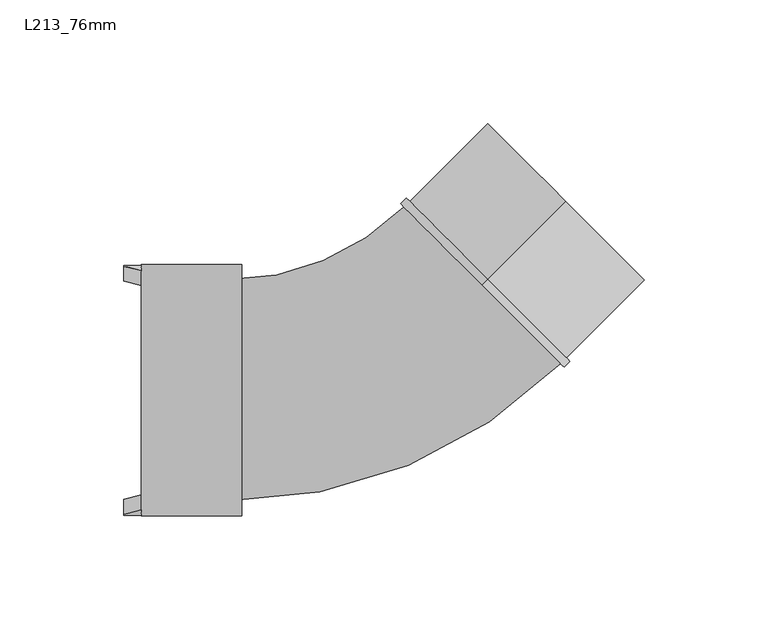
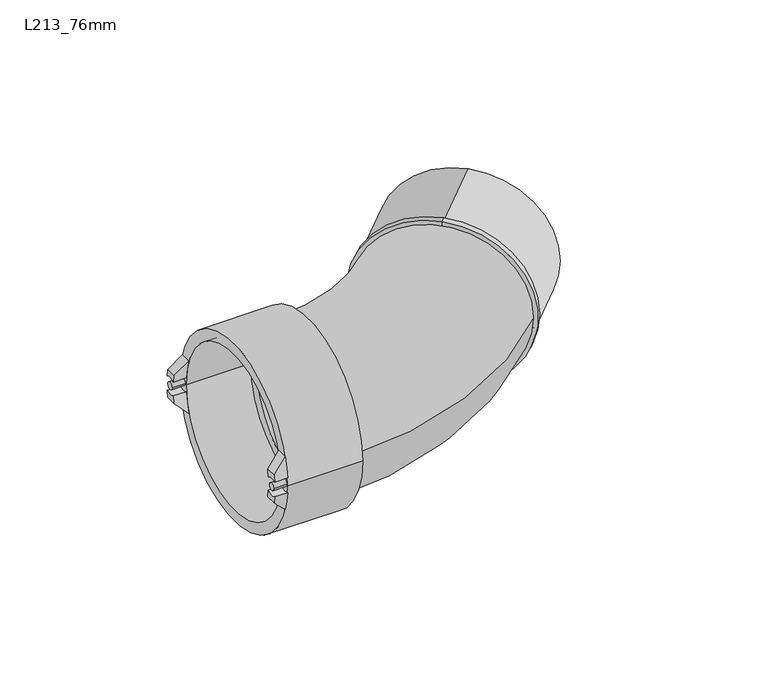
"""IFC4 building model written with IfcOpenShell, lengths in millimetres: pipe fitting geometry, Durapipe_PipeFitting_VulcatheneEnfusion_SingleSocketSlowBend_L21 : L213_76mm."""

import ifcopenshell
import ifcopenshell.guid

model = None  # the IFC model being written
_history = None  # IfcOwnerHistory: only IFC2X3 demands one
_inside = {}  # id of a spatial element -> (the spatial element, [elements in it])
_under = {}  # id of a project, library or spatial element -> (it, [spatial elements below it])
_declared = {}  # id of a project -> (the project, [libraries it declares])
_typed = {}  # id of a type object -> (the type object, [elements of that type])
_made_of = {}  # id of a material, layer set ... -> (it, [elements and type objects made of it])


def new_model(schema):
    """Start an empty IFC model of exactly this schema.

    Asked for "IFC4X3", IfcOpenShell would pick the latest addendum, in which some entities
    have other attributes; the version numbers below select the first issue.
    IFC2X3 requires an IfcOwnerHistory on every rooted entity: one is made here for all.
    """
    global model, _history
    if schema == "IFC4X3":
        model = ifcopenshell.file(schema_version=(4, 3, 0, 0))
    else:
        model = ifcopenshell.file(schema=schema)
    _inside.clear()
    _under.clear()
    _declared.clear()
    _typed.clear()
    _made_of.clear()
    _history = None
    if model.schema == "IFC2X3":
        org = make("IfcOrganization", Name="unknown")
        user = make(
            "IfcPersonAndOrganization",
            ThePerson=make("IfcPerson", FamilyName="unknown"),
            TheOrganization=org,
        )
        app = make(
            "IfcApplication",
            ApplicationDeveloper=org,
            Version="unknown",
            ApplicationFullName="unknown",
            ApplicationIdentifier="unknown",
        )
        _history = make(
            "IfcOwnerHistory",
            OwningUser=user,
            OwningApplication=app,
            ChangeAction="ADDED",
            CreationDate=0,
        )
    return model


def make(cls, **values):
    """One entity of the class cls with the attributes given. An attribute that is None is left unset."""
    return model.create_entity(
        cls, **{name: value for name, value in values.items() if value is not None}
    )


def rooted(cls, **values):
    """An entity with a GlobalId (a new one), such as an element, a storey or a relation."""
    return make(cls, GlobalId=ifcopenshell.guid.new(), OwnerHistory=_history, **values)


def si_unit(unit_type, name, prefix=None):
    """IfcSIUnit, for example si_unit("LENGTHUNIT", "METRE", prefix="MILLI")."""
    return make("IfcSIUnit", UnitType=unit_type, Prefix=prefix, Name=name)


def assignment(units):
    """IfcUnitAssignment: the units of a project."""
    return None if units is None else make("IfcUnitAssignment", Units=units)


def point(xyz):
    """IfcCartesianPoint."""
    return None if xyz is None else make("IfcCartesianPoint", Coordinates=xyz)


def direction(xyz):
    """IfcDirection."""
    return None if xyz is None else make("IfcDirection", DirectionRatios=xyz)


def frame(location, z_axis=None, x_axis=None):
    """IfcAxis2Placement3D, a coordinate frame: its origin and axes. An axis left out is left unset."""
    return make(
        "IfcAxis2Placement3D",
        Location=point(location),
        Axis=direction(z_axis),
        RefDirection=direction(x_axis),
    )


def frame_2d(location, x_axis=None):
    """IfcAxis2Placement2D, a coordinate frame in the plane: its origin and x axis."""
    return make(
        "IfcAxis2Placement2D", Location=point(location), RefDirection=direction(x_axis)
    )


def origin():
    """The frame at (0, 0, 0) with its axes left unset."""
    return frame((0.0, 0.0, 0.0))


def place(relative_to, where):
    """IfcLocalPlacement: puts the frame where relative to a parent placement (None: the world)."""
    return make(
        "IfcLocalPlacement", PlacementRelTo=relative_to, RelativePlacement=where
    )


def context(
    kind, dimensions, precision=None, world=None, true_north=None, identifier=None
):
    """IfcGeometricRepresentationContext, for example the 3D "Model" context."""
    return make(
        "IfcGeometricRepresentationContext",
        ContextIdentifier=identifier,
        ContextType=kind,
        CoordinateSpaceDimension=dimensions,
        Precision=precision,
        WorldCoordinateSystem=world,
        TrueNorth=true_north,
    )


def project(units=None, contexts=None):
    """IfcProject with its units and contexts."""
    return rooted(
        "IfcProject",
        Name="project",
        RepresentationContexts=contexts,
        UnitsInContext=assignment(units),
    )


def spatial(cls, under=None, at=None, **own):
    """A site, building, storey or space (cls), placed at a placement, below another one or the project."""
    s = rooted(cls, ObjectPlacement=at, **own)
    if under is not None:
        _under.setdefault(under.id(), (under, []))[1].append(s)
    return s


def polyline(points):
    """IfcPolyline through the points."""
    return make("IfcPolyline", Points=[point(p) for p in points])


def circle_curve(where, radius):
    """IfcCircle in the frame where."""
    return make("IfcCircle", Position=where, Radius=radius)


def ellipse_curve(where, semi_axis1, semi_axis2):
    """IfcEllipse in the frame where."""
    return make(
        "IfcEllipse", Position=where, SemiAxis1=semi_axis1, SemiAxis2=semi_axis2
    )


def trimmed(basis, trim1, trim2, sense, master):
    """IfcTrimmedCurve: the piece of a basis curve between two trims."""
    return make(
        "IfcTrimmedCurve",
        BasisCurve=basis,
        Trim1=trim1,
        Trim2=trim2,
        SenseAgreement=sense,
        MasterRepresentation=master,
    )


def segment(curve, same_sense, transition):
    """IfcCompositeCurveSegment."""
    return make(
        "IfcCompositeCurveSegment",
        Transition=transition,
        SameSense=same_sense,
        ParentCurve=curve,
    )


def composite_curve(segments, self_intersect=None):
    """IfcCompositeCurve: segments joined end to end."""
    return make("IfcCompositeCurve", Segments=segments, SelfIntersect=self_intersect)


def outline(outer, holes=None, kind="AREA"):
    """IfcArbitraryClosedProfileDef: a profile drawn as a closed curve; with holes, ...WithVoids."""
    if holes is None:
        return make("IfcArbitraryClosedProfileDef", ProfileType=kind, OuterCurve=outer)
    return make(
        "IfcArbitraryProfileDefWithVoids",
        ProfileType=kind,
        OuterCurve=outer,
        InnerCurves=holes,
    )


def extrude(swept, where, along, depth):
    """IfcExtrudedAreaSolid: the profile swept, set in the frame where, extruded along a direction by depth."""
    return make(
        "IfcExtrudedAreaSolid",
        SweptArea=swept,
        Position=where,
        ExtrudedDirection=direction(along),
        Depth=depth,
    )


def shape(context_of_items, identifier, shape_type, items):
    """IfcShapeRepresentation: the items that make up one representation, for example the "Body"."""
    return make(
        "IfcShapeRepresentation",
        ContextOfItems=context_of_items,
        RepresentationIdentifier=identifier,
        RepresentationType=shape_type,
        Items=items,
    )


def source(mapping_origin, context_of_items, identifier, shape_type, items):
    """IfcRepresentationMap: a shape defined once, which mapped items show again and again."""
    return make(
        "IfcRepresentationMap",
        MappingOrigin=mapping_origin,
        MappedRepresentation=shape(context_of_items, identifier, shape_type, items),
    )


def transform(
    local_origin,
    x_axis=None,
    y_axis=None,
    z_axis=None,
    scale=None,
    scale2=None,
    scale3=None,
    uniform=True,
):
    """IfcCartesianTransformationOperator3D, or its non-uniform kind. x_axis, y_axis, z_axis: its Axis1, 2, 3."""
    if uniform:
        return make(
            "IfcCartesianTransformationOperator3D",
            Axis1=direction(x_axis),
            Axis2=direction(y_axis),
            LocalOrigin=point(local_origin),
            Scale=scale,
            Axis3=direction(z_axis),
        )
    return make(
        "IfcCartesianTransformationOperator3DnonUniform",
        Axis1=direction(x_axis),
        Axis2=direction(y_axis),
        LocalOrigin=point(local_origin),
        Scale=scale,
        Axis3=direction(z_axis),
        Scale2=scale2,
        Scale3=scale3,
    )


def mapped(mapping_source, mapping_target):
    """IfcMappedItem: shows the shape of a source again, moved by a transform."""
    return make(
        "IfcMappedItem", MappingSource=mapping_source, MappingTarget=mapping_target
    )


def made_of(thing, what):
    """Note that an element or type object is made of a material, layer set ...; save() writes the relation."""
    if what is not None:
        _made_of.setdefault(what.id(), (what, []))[1].append(thing)
    return thing


def element(
    cls,
    number,
    at=None,
    inside=None,
    cuts=None,
    type_object=None,
    material=None,
    context=None,
    identifier="Body",
    shape_type=None,
    held_by="IfcProductDefinitionShape",
    body=None,
    shapes=None,
    **own,
):
    """One element of the class cls, such as IfcWall. Its Tag is "e" and its number.

    at: its placement. inside: the storey or other place that contains it. cuts: it is an
    opening in that element (IfcRelVoidsElement). A single representation is given by context,
    identifier, shape_type and body (its items); several are given by shapes. held_by: the class
    of the entity that holds the representations. save() writes the other relations.
    """
    e = rooted(cls, Tag="e%d" % number, ObjectPlacement=at, **own)
    if body is not None:
        shapes = [shape(context, identifier, shape_type, body)]
    if shapes is not None:
        e.Representation = make(held_by, Representations=shapes)
    if inside is not None:
        _inside.setdefault(inside.id(), (inside, []))[1].append(e)
    if cuts is not None:
        rooted(
            "IfcRelVoidsElement", RelatingBuildingElement=cuts, RelatedOpeningElement=e
        )
    if type_object is not None:
        _typed.setdefault(type_object.id(), (type_object, []))[1].append(e)
    return made_of(e, material)


def aggregate(whole, parts):
    """IfcRelAggregates: a whole, such as a stair, and the parts it consists of."""
    return rooted("IfcRelAggregates", RelatingObject=whole, RelatedObjects=parts)


def save(model, path):
    """Write the relations noted so far, then the file.

    IfcRelAggregates (storeys below a building ...), IfcRelContainedInSpatialStructure (elements
    in a storey), IfcRelDefinesByType, IfcRelAssociatesMaterial and IfcRelDeclares: one each for
    every whole, place, type object, material and project.
    """
    for whole, parts in _under.values():
        aggregate(whole, parts)
    for where, things in _inside.values():
        rooted(
            "IfcRelContainedInSpatialStructure",
            RelatedElements=things,
            RelatingStructure=where,
        )
    for kind, things in _typed.values():
        rooted("IfcRelDefinesByType", RelatedObjects=things, RelatingType=kind)
    for what, things in _made_of.values():
        rooted("IfcRelAssociatesMaterial", RelatedObjects=things, RelatingMaterial=what)
    for by, libraries in _declared.values():
        rooted("IfcRelDeclares", RelatingContext=by, RelatedDefinitions=libraries)
    model.write(path)


def plane_surface(at):
    """IfcPlane: the flat surface through the origin of the frame at, square to its z axis."""
    return make("IfcPlane", Position=at)


def cylinder_surface(at, radius):
    """IfcCylindricalSurface: all points at the distance radius from the z axis of the frame at."""
    return make("IfcCylindricalSurface", Position=at, Radius=radius)


def revolved_surface(curve, axis_point, axis_direction):
    """IfcSurfaceOfRevolution: the curve turned about the line through axis_point along axis_direction."""
    return make(
        "IfcSurfaceOfRevolution",
        SweptCurve=make("IfcArbitraryOpenProfileDef", ProfileType="CURVE", Curve=curve),
        AxisPosition=make("IfcAxis1Placement", Location=point(axis_point), Axis=direction(axis_direction)),
    )


def advanced_brep(points, edges, surfaces, faces):
    """IfcAdvancedBrep: a solid bounded by faces that lie on surfaces and meet in shared edges.

    An edge is (start, end): straight between two places in points (the first is 0);
    or (start, end, curve); or (start, end, curve, False) where it runs against its curve.
    A face is (place in surfaces, loops), or (place, loops, False) where it looks against
    its surface's normal. A loop lists edges by number (the first is 1), with a minus sign
    where the edge is run from its end to its start. The first loop is the outer one.
    """
    corners = [point(p) for p in points]
    vertices = [make("IfcVertexPoint", VertexGeometry=c) for c in corners]
    made = []
    for start, end, *more in edges:
        made.append(
            make(
                "IfcEdgeCurve",
                EdgeStart=vertices[start],
                EdgeEnd=vertices[end],
                EdgeGeometry=more[0] if more else make("IfcPolyline", Points=[corners[start], corners[end]]),
                SameSense=more[1] if len(more) > 1 else True,
            )
        )
    hull = []
    for where, loops, *sense in faces:
        bounds = []
        for j, loop in enumerate(loops):
            ring = [make("IfcOrientedEdge", EdgeElement=made[abs(k) - 1], Orientation=k > 0) for k in loop]
            bounds.append(
                make(
                    "IfcFaceOuterBound" if j == 0 else "IfcFaceBound",
                    Bound=make("IfcEdgeLoop", EdgeList=ring),
                    Orientation=True,
                )
            )
        hull.append(make("IfcAdvancedFace", Bounds=bounds, FaceSurface=surfaces[where], SameSense=sense[0] if sense else True))
    return make("IfcAdvancedBrep", Outer=make("IfcClosedShell", CfsFaces=hull))


def l213_76mm_04a1a28b(model_context):
    return source(origin(), model_context, "Body", "SolidModel", [
        advanced_brep(
        [(-102.1609665, 44.6762827, -3.9436356), (-102.1609665, 50.4762827, -4.1913461), (-102.1609665, 50.0237833, -7.94), (-102.1609665, 44.1415779, -7.94), (-95.0609665, 48.3779133, -15.0), (-95.0609665, 50.4762827, -4.1913461), (-95.0609665, 44.6762827, -3.9436356), (-95.0609665, 42.2672746, -15.0)],
        [
            (0, 1, circle_curve(frame((-102.1609665, 47.75, 0.0), z_axis=(1.0, 0.0, 0.0), x_axis=(0.0, -1.0, 0.0)), 5.0)),
            (1, 2, circle_curve(frame((-102.1609665, 0.0, 0.0), z_axis=(-1.0, 0.0, 0.0), x_axis=(0.0, -1.0, 0.0)), 50.65)),
            (2, 3),
            (3, 0, circle_curve(frame((-102.1609665, 0.0, 0.0), z_axis=(1.0, 0.0, 0.0), x_axis=(0.0, -1.0, 0.0)), 44.85)),
            (4, 5, circle_curve(frame((-95.0609665, 0.0, 0.0), z_axis=(1.0, 0.0, 0.0), x_axis=(0.0, -1.0, 0.0)), 50.65)),
            (5, 6, circle_curve(frame((-95.0609665, 47.75, 0.0), z_axis=(-1.0, 0.0, 0.0), x_axis=(0.0, -1.0, 0.0)), 5.0)),
            (6, 7, circle_curve(frame((-95.0609665, 0.0, 0.0), z_axis=(-1.0, 0.0, 0.0), x_axis=(0.0, -1.0, 0.0)), 44.85)),
            (7, 4),
            (6, 0),
            (3, 7, ellipse_curve(frame((-110.1459524, 0.0, 0.0), z_axis=(-0.705106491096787, 0.0, -0.7091014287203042), x_axis=(0.7091014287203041, 0.0, -0.705106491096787)), 63.6074133, 44.85)),
            (4, 2, ellipse_curve(frame((-110.1459524, 0.0, 0.0), z_axis=(0.705106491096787, 0.0, 0.7091014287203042), x_axis=(-0.7091014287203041, 0.0, 0.705106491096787)), 71.8331212, 50.65)),
            (1, 5),
        ],
        [
            plane_surface(frame((-102.1609665, 48.3779133, -15.0), z_axis=(-1.0, 0.0, 0.0), x_axis=(0.0, -1.0, 0.0))),
            plane_surface(frame((-95.0609665, 48.3779133, -15.0), z_axis=(1.0, 0.0, 0.0), x_axis=(0.0, 1.0, 0.0))),
            revolved_surface(polyline([(-65.04184475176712, -44.85, 0.0), (-155.25006004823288, -44.85, 0.0)]), (-95.0609665, 0.0, 0.0), (1.0, 0.0, 0.0)),
            cylinder_surface(frame((-95.0609665, 0.0, 0.0), z_axis=(-1.0, 0.0, 0.0), x_axis=(0.0, -1.0, 0.0)), 50.65),
            revolved_surface(polyline([(-102.1609665, 42.75, 0.0), (-95.0609665, 42.75, 0.0)]), (-95.0609665, 47.75, 0.0), (-1.0, 0.0, 0.0)),
            plane_surface(frame((-95.0609665, -50.65, -15.0), z_axis=(-0.705106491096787, 0.0, -0.7091014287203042), x_axis=(0.0, 1.0, 0.0))),
        ],
        [
            (0, [[1, 2, 3, 4]]),
            (1, [[5, 6, 7, 8]]),
            (2, [[-7, 9, -4, 10]]),
            (3, [[-5, 11, -2, 12]]),
            (4, [[-1, -9, -6, -12]]),
            (5, [[-3, -11, -8, -10]]),
        ],
    ),
        advanced_brep(
        [(-102.1609665, 50.4762827, 4.1913461), (-102.1609665, 44.6762827, 3.9436356), (-102.1609665, 44.1415779, 7.94), (-102.1609665, 50.0237833, 7.94), (-95.0609665, 50.4762827, 4.1913461), (-95.0609665, 48.3779133, 15.0), (-95.0609665, 42.2672746, 15.0), (-95.0609665, 44.6762827, 3.9436356)],
        [
            (0, 1, circle_curve(frame((-102.1609665, 47.75, 0.0), z_axis=(1.0, 0.0, 0.0), x_axis=(0.0, -1.0, 0.0)), 5.0)),
            (1, 2, circle_curve(frame((-102.1609665, 0.0, 0.0), z_axis=(1.0, 0.0, 0.0), x_axis=(0.0, -1.0, 0.0)), 44.85)),
            (2, 3),
            (3, 0, circle_curve(frame((-102.1609665, 0.0, 0.0), z_axis=(-1.0, 0.0, 0.0), x_axis=(0.0, -1.0, 0.0)), 50.65)),
            (4, 5, circle_curve(frame((-95.0609665, 0.0, 0.0), z_axis=(1.0, 0.0, 0.0), x_axis=(0.0, -1.0, 0.0)), 50.65)),
            (5, 6),
            (6, 7, circle_curve(frame((-95.0609665, 0.0, 0.0), z_axis=(-1.0, 0.0, 0.0), x_axis=(0.0, -1.0, 0.0)), 44.85)),
            (7, 4, circle_curve(frame((-95.0609665, 47.75, 0.0), z_axis=(-1.0, 0.0, 0.0), x_axis=(0.0, -1.0, 0.0)), 5.0)),
            (6, 2, ellipse_curve(frame((-110.1459524, 0.0, 0.0), z_axis=(-0.7051064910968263, 0.0, 0.7091014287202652), x_axis=(0.7091014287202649, 0.0, 0.7051064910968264)), 63.6074133, 44.85)),
            (1, 7),
            (4, 0),
            (3, 5, ellipse_curve(frame((-110.1459524, 0.0, 0.0), z_axis=(0.7051064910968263, 0.0, -0.7091014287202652), x_axis=(-0.7091014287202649, 0.0, -0.7051064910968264)), 71.8331212, 50.65)),
        ],
        [
            plane_surface(frame((-102.1609665, 48.3779133, -15.0), z_axis=(-1.0, 0.0, 0.0), x_axis=(0.0, -1.0, 0.0))),
            plane_surface(frame((-95.0609665, 48.3779133, -15.0), z_axis=(1.0, 0.0, 0.0), x_axis=(0.0, 1.0, 0.0))),
            revolved_surface(polyline([(-65.04184475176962, -44.85, 0.0), (-155.25006004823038, -44.85, 0.0)]), (-95.0609665, 0.0, 0.0), (1.0, 0.0, 0.0)),
            cylinder_surface(frame((-95.0609665, 0.0, 0.0), z_axis=(-1.0, 0.0, 0.0), x_axis=(0.0, -1.0, 0.0)), 50.65),
            revolved_surface(polyline([(-102.1609665, 42.75, 0.0), (-95.0609665, 42.75, 0.0)]), (-95.0609665, 47.75, 0.0), (-1.0, 0.0, 0.0)),
            plane_surface(frame((-102.1609665, -50.65, 7.94), z_axis=(-0.7051064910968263, 0.0, 0.7091014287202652), x_axis=(0.0, 1.0, 0.0))),
        ],
        [
            (0, [[1, 2, 3, 4]]),
            (1, [[5, 6, 7, 8]]),
            (2, [[-7, 9, -2, 10]]),
            (3, [[-5, 11, -4, 12]]),
            (4, [[-1, -11, -8, -10]]),
            (5, [[-3, -9, -6, -12]]),
        ],
    ),
        advanced_brep(
        [(-102.1609665, -50.4762827, -4.1913461), (-102.1609665, -44.6762827, -3.9436356), (-102.1609665, -44.1415779, -7.94), (-102.1609665, -50.0237833, -7.94), (-95.0609665, -50.4762827, -4.1913461), (-95.0609665, -48.3779133, -15.0), (-95.0609665, -42.2672746, -15.0), (-95.0609665, -44.6762827, -3.9436356)],
        [
            (0, 1, circle_curve(frame((-102.1609665, -47.75, 0.0), z_axis=(1.0, 0.0, 0.0), x_axis=(0.0, -1.0, 0.0)), 5.0)),
            (1, 2, circle_curve(frame((-102.1609665, 0.0, 0.0), z_axis=(1.0, 0.0, 0.0), x_axis=(0.0, -1.0, 0.0)), 44.85)),
            (2, 3),
            (3, 0, circle_curve(frame((-102.1609665, 0.0, 0.0), z_axis=(-1.0, 0.0, 0.0), x_axis=(0.0, -1.0, 0.0)), 50.65)),
            (4, 5, circle_curve(frame((-95.0609665, 0.0, 0.0), z_axis=(1.0, 0.0, 0.0), x_axis=(0.0, -1.0, 0.0)), 50.65)),
            (5, 6),
            (6, 7, circle_curve(frame((-95.0609665, 0.0, 0.0), z_axis=(-1.0, 0.0, 0.0), x_axis=(0.0, -1.0, 0.0)), 44.85)),
            (7, 4, circle_curve(frame((-95.0609665, -47.75, 0.0), z_axis=(-1.0, 0.0, 0.0), x_axis=(0.0, -1.0, 0.0)), 5.0)),
            (6, 2, ellipse_curve(frame((-110.1459524, 0.0, 0.0), z_axis=(-0.705106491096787, 0.0, -0.7091014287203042), x_axis=(0.7091014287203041, 0.0, -0.705106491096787)), 63.6074133, 44.85)),
            (1, 7),
            (4, 0),
            (3, 5, ellipse_curve(frame((-110.1459524, 0.0, 0.0), z_axis=(0.705106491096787, 0.0, 0.7091014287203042), x_axis=(-0.7091014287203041, 0.0, 0.705106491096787)), 71.8331212, 50.65)),
        ],
        [
            plane_surface(frame((-102.1609665, 48.3779133, -15.0), z_axis=(-1.0, 0.0, 0.0), x_axis=(0.0, -1.0, 0.0))),
            plane_surface(frame((-95.0609665, 48.3779133, -15.0), z_axis=(1.0, 0.0, 0.0), x_axis=(0.0, 1.0, 0.0))),
            revolved_surface(polyline([(-65.04184475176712, -44.85, 0.0), (-155.25006004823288, -44.85, 0.0)]), (-95.0609665, 0.0, 0.0), (1.0, 0.0, 0.0)),
            cylinder_surface(frame((-95.0609665, 0.0, 0.0), z_axis=(-1.0, 0.0, 0.0), x_axis=(0.0, -1.0, 0.0)), 50.65),
            revolved_surface(polyline([(-102.1609665, -52.75, 0.0), (-95.0609665, -52.75, 0.0)]), (-95.0609665, -47.75, 0.0), (-1.0, 0.0, 0.0)),
            plane_surface(frame((-95.0609665, -50.65, -15.0), z_axis=(-0.705106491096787, 0.0, -0.7091014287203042), x_axis=(0.0, 1.0, 0.0))),
        ],
        [
            (0, [[1, 2, 3, 4]]),
            (1, [[5, 6, 7, 8]]),
            (2, [[-7, 9, -2, 10]]),
            (3, [[-5, 11, -4, 12]]),
            (4, [[-1, -11, -8, -10]]),
            (5, [[-3, -9, -6, -12]]),
        ],
    ),
        advanced_brep(
        [(-102.1609665, -44.6762827, 3.9436356), (-102.1609665, -50.4762827, 4.1913461), (-102.1609665, -50.0237833, 7.94), (-102.1609665, -44.1415779, 7.94), (-95.0609665, -48.3779133, 15.0), (-95.0609665, -50.4762827, 4.1913461), (-95.0609665, -44.6762827, 3.9436356), (-95.0609665, -42.2672746, 15.0)],
        [
            (0, 1, circle_curve(frame((-102.1609665, -47.75, 0.0), z_axis=(1.0, 0.0, 0.0), x_axis=(0.0, -1.0, 0.0)), 5.0)),
            (1, 2, circle_curve(frame((-102.1609665, 0.0, 0.0), z_axis=(-1.0, 0.0, 0.0), x_axis=(0.0, -1.0, 0.0)), 50.65)),
            (2, 3),
            (3, 0, circle_curve(frame((-102.1609665, 0.0, 0.0), z_axis=(1.0, 0.0, 0.0), x_axis=(0.0, -1.0, 0.0)), 44.85)),
            (4, 5, circle_curve(frame((-95.0609665, 0.0, 0.0), z_axis=(1.0, 0.0, 0.0), x_axis=(0.0, -1.0, 0.0)), 50.65)),
            (5, 6, circle_curve(frame((-95.0609665, -47.75, 0.0), z_axis=(-1.0, 0.0, 0.0), x_axis=(0.0, -1.0, 0.0)), 5.0)),
            (6, 7, circle_curve(frame((-95.0609665, 0.0, 0.0), z_axis=(-1.0, 0.0, 0.0), x_axis=(0.0, -1.0, 0.0)), 44.85)),
            (7, 4),
            (6, 0),
            (3, 7, ellipse_curve(frame((-110.1459524, 0.0, 0.0), z_axis=(-0.7051064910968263, 0.0, 0.7091014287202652), x_axis=(0.7091014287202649, 0.0, 0.7051064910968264)), 63.6074133, 44.85)),
            (4, 2, ellipse_curve(frame((-110.1459524, 0.0, 0.0), z_axis=(0.7051064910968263, 0.0, -0.7091014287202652), x_axis=(-0.7091014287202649, 0.0, -0.7051064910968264)), 71.8331212, 50.65)),
            (1, 5),
        ],
        [
            plane_surface(frame((-102.1609665, 48.3779133, -15.0), z_axis=(-1.0, 0.0, 0.0), x_axis=(0.0, -1.0, 0.0))),
            plane_surface(frame((-95.0609665, 48.3779133, -15.0), z_axis=(1.0, 0.0, 0.0), x_axis=(0.0, 1.0, 0.0))),
            revolved_surface(polyline([(-65.04184475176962, -44.85, 0.0), (-155.25006004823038, -44.85, 0.0)]), (-95.0609665, 0.0, 0.0), (1.0, 0.0, 0.0)),
            cylinder_surface(frame((-95.0609665, 0.0, 0.0), z_axis=(-1.0, 0.0, 0.0), x_axis=(0.0, -1.0, 0.0)), 50.65),
            revolved_surface(polyline([(-102.1609665, -52.75, 0.0), (-95.0609665, -52.75, 0.0)]), (-95.0609665, -47.75, 0.0), (-1.0, 0.0, 0.0)),
            plane_surface(frame((-102.1609665, -50.65, 7.94), z_axis=(-0.7051064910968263, 0.0, 0.7091014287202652), x_axis=(0.0, 1.0, 0.0))),
        ],
        [
            (0, [[1, 2, 3, 4]]),
            (1, [[5, 6, 7, 8]]),
            (2, [[-7, 9, -4, 10]]),
            (3, [[-5, 11, -2, 12]]),
            (4, [[-1, -9, -6, -12]]),
            (5, [[-3, -11, -8, -10]]),
        ],
    ),
        extrude(outline(composite_curve([segment(trimmed(circle_curve(frame_2d((47.75, 0.0)), 2.0), [point((49.75, 0.0))], [point((45.75, 0.0))], False, "CARTESIAN"), True, "CONTINUOUS"), segment(trimmed(circle_curve(frame_2d((47.75, 0.0)), 2.0), [point((45.75, 0.0))], [point((49.75, 0.0))], False, "CARTESIAN"), True, "CONTINUOUS")], self_intersect=False)), frame((-102.1609665, 0.0, 0.0), z_axis=(1.0, 0.0, 0.0), x_axis=(0.0, 1.0, 0.0)), (0.0, 0.0, 1.0), 7.1),
        extrude(outline(composite_curve([segment(trimmed(circle_curve(frame_2d((-47.75, 0.0)), 2.0), [point((-45.75, 0.0))], [point((-49.75, 0.0))], False, "CARTESIAN"), True, "CONTINUOUS"), segment(trimmed(circle_curve(frame_2d((-47.75, 0.0)), 2.0), [point((-49.75, 0.0))], [point((-45.75, 0.0))], False, "CARTESIAN"), True, "CONTINUOUS")], self_intersect=False)), frame((-102.1609665, 0.0, 0.0), z_axis=(1.0, 0.0, 0.0), x_axis=(0.0, 1.0, 0.0)), (0.0, 0.0, 1.0), 7.1),
        advanced_brep(
        [(-60.0609665, 39.3, 0.0), (-60.0609665, -39.3, 0.0), (-60.0609665, -44.7, 0.0), (-60.0609665, 44.7, 0.0), (-54.5609665, 39.3, 0.0), (-54.5609665, -39.3, 0.0), (-54.5609665, 50.8, 0.0), (-54.5609665, -50.8, 0.0), (-95.0609665, 50.8, 0.0), (-95.0609665, -50.8, 0.0), (-95.0609665, 44.7, 0.0), (-95.0609665, -44.7, 0.0)],
        [
            (0, 1, circle_curve(frame((-60.0609665, 0.0, 0.0), z_axis=(1.0, 0.0, 0.0), x_axis=(0.0, -1.0, 0.0)), 39.3)),
            (1, 2),
            (2, 3, circle_curve(frame((-60.0609665, 0.0, 0.0), z_axis=(-1.0, 0.0, 0.0), x_axis=(0.0, -1.0, 0.0)), 44.7)),
            (3, 0),
            (1, 0, circle_curve(frame((-60.0609665, 0.0, 0.0), z_axis=(1.0, 0.0, 0.0), x_axis=(0.0, -1.0, 0.0)), 39.3)),
            (3, 2, circle_curve(frame((-60.0609665, 0.0, 0.0), z_axis=(-1.0, 0.0, 0.0), x_axis=(0.0, -1.0, 0.0)), 44.7)),
            (4, 5, circle_curve(frame((-54.5609665, 0.0, 0.0), z_axis=(1.0, 0.0, 0.0), x_axis=(0.0, -1.0, 0.0)), 39.3)),
            (5, 1),
            (0, 4),
            (5, 4, circle_curve(frame((-54.5609665, 0.0, 0.0), z_axis=(1.0, 0.0, 0.0), x_axis=(0.0, -1.0, 0.0)), 39.3)),
            (6, 7, circle_curve(frame((-54.5609665, 0.0, 0.0), z_axis=(1.0, 0.0, 0.0), x_axis=(0.0, -1.0, 0.0)), 50.8)),
            (7, 5),
            (4, 6),
            (7, 6, circle_curve(frame((-54.5609665, 0.0, 0.0), z_axis=(1.0, 0.0, 0.0), x_axis=(0.0, -1.0, 0.0)), 50.8)),
            (8, 9, circle_curve(frame((-95.0609665, 0.0, 0.0), z_axis=(1.0, 0.0, 0.0), x_axis=(0.0, -1.0, 0.0)), 50.8)),
            (9, 7),
            (6, 8),
            (9, 8, circle_curve(frame((-95.0609665, 0.0, 0.0), z_axis=(1.0, 0.0, 0.0), x_axis=(0.0, -1.0, 0.0)), 50.8)),
            (10, 11, circle_curve(frame((-95.0609665, 0.0, 0.0), z_axis=(1.0, 0.0, 0.0), x_axis=(0.0, -1.0, 0.0)), 44.7)),
            (11, 9),
            (8, 10),
            (11, 10, circle_curve(frame((-95.0609665, 0.0, 0.0), z_axis=(1.0, 0.0, 0.0), x_axis=(0.0, -1.0, 0.0)), 44.7)),
            (2, 11),
            (10, 3),
        ],
        [
            plane_surface(frame((-60.0609665, 0.0, 0.0), z_axis=(-1.0, 0.0, 0.0), x_axis=(0.0, -1.0, 0.0))),
            revolved_surface(polyline([(-60.06096650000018, -39.3, 0.0), (-54.56096650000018, -39.3, 0.0)]), (-2609.0435906, 0.0, 0.0), (-1.0, 0.0, 0.0)),
            plane_surface(frame((-54.5609665, 0.0, 0.0), z_axis=(1.0, 0.0, 0.0), x_axis=(0.0, -1.0, 0.0))),
            cylinder_surface(frame((-2609.0435906, 0.0, 0.0), z_axis=(-1.0, 0.0, 0.0), x_axis=(0.0, -1.0, 0.0)), 50.8),
            plane_surface(frame((-95.0609665, 0.0, 0.0), z_axis=(-1.0, 0.0, 0.0), x_axis=(0.0, -1.0, 0.0))),
            revolved_surface(polyline([(-95.06096650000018, -44.7, 0.0), (-60.06096650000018, -44.7, 0.0)]), (-2609.0435906, 0.0, 0.0), (-1.0, 0.0, 0.0)),
        ],
        [
            (0, [[1, 2, 3, 4]]),
            (0, [[5, -4, 6, -2]]),
            (1, [[7, 8, -1, 9]]),
            (1, [[10, -9, -5, -8]]),
            (2, [[11, 12, -7, 13]]),
            (2, [[14, -13, -10, -12]]),
            (3, [[15, 16, -11, 17]]),
            (3, [[18, -17, -14, -16]]),
            (4, [[19, 20, -15, 21]]),
            (4, [[22, -21, -18, -20]]),
            (5, [[-3, 23, -19, 24]]),
            (5, [[-6, -24, -22, -23]]),
        ],
    ),
        advanced_brep(
        [(42.4695167, 42.4695167, -46.7), (42.4695167, 42.4695167, 46.7), (42.4695167, 42.4695167, 39.3), (42.4695167, 42.4695167, -39.3), (44.7322584, 44.7322584, -46.7), (44.7322584, 44.7322584, 46.7), (44.7322584, 44.7322584, -44.7), (44.7322584, 44.7322584, 44.7), (76.1985102, 76.1985102, -44.7), (76.1985102, 76.1985102, 44.7), (76.1985102, 76.1985102, -39.3), (76.1985102, 76.1985102, 39.3)],
        [
            (0, 1, circle_curve(frame((42.4695167, 42.4695167, 0.0), z_axis=(-0.7071067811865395, -0.7071067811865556, 0.0), x_axis=(0.0, 0.0, 1.0)), 46.7)),
            (1, 2),
            (2, 3, circle_curve(frame((42.4695167, 42.4695167, 0.0), z_axis=(0.7071067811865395, 0.7071067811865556, 0.0), x_axis=(0.0, 0.0, 1.0)), 39.3)),
            (3, 0),
            (1, 0, circle_curve(frame((42.4695167, 42.4695167, 0.0), z_axis=(-0.7071067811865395, -0.7071067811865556, 0.0), x_axis=(0.0, 0.0, 1.0)), 46.7)),
            (3, 2, circle_curve(frame((42.4695167, 42.4695167, 0.0), z_axis=(0.7071067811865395, 0.7071067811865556, 0.0), x_axis=(0.0, 0.0, 1.0)), 39.3)),
            (4, 5, circle_curve(frame((44.7322584, 44.7322584, 0.0), z_axis=(-0.7071067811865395, -0.7071067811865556, 0.0), x_axis=(0.0, 0.0, 1.0)), 46.7)),
            (5, 1),
            (0, 4),
            (5, 4, circle_curve(frame((44.7322584, 44.7322584, 0.0), z_axis=(-0.7071067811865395, -0.7071067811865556, 0.0), x_axis=(0.0, 0.0, 1.0)), 46.7)),
            (6, 7, circle_curve(frame((44.7322584, 44.7322584, 0.0), z_axis=(-0.7071067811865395, -0.7071067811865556, 0.0), x_axis=(0.0, 0.0, 1.0)), 44.7)),
            (7, 5),
            (4, 6),
            (7, 6, circle_curve(frame((44.7322584, 44.7322584, 0.0), z_axis=(-0.7071067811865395, -0.7071067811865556, 0.0), x_axis=(0.0, 0.0, 1.0)), 44.7)),
            (8, 9, circle_curve(frame((76.1985102, 76.1985102, 0.0), z_axis=(-0.7071067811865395, -0.7071067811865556, 0.0), x_axis=(0.0, 0.0, 1.0)), 44.7)),
            (9, 7),
            (6, 8),
            (9, 8, circle_curve(frame((76.1985102, 76.1985102, 0.0), z_axis=(-0.7071067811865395, -0.7071067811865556, 0.0), x_axis=(0.0, 0.0, 1.0)), 44.7)),
            (10, 11, circle_curve(frame((76.1985102, 76.1985102, 0.0), z_axis=(-0.7071067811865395, -0.7071067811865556, 0.0), x_axis=(0.0, 0.0, 1.0)), 39.3)),
            (11, 9),
            (8, 10),
            (11, 10, circle_curve(frame((76.1985102, 76.1985102, 0.0), z_axis=(-0.7071067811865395, -0.7071067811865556, 0.0), x_axis=(0.0, 0.0, 1.0)), 39.3)),
            (2, 11),
            (10, 3),
        ],
        [
            plane_surface(frame((42.4695167, 42.4695167, 0.0), z_axis=(-0.7071067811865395, -0.7071067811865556, 0.0), x_axis=(0.0, 0.0, 1.0))),
            cylinder_surface(frame((1878.6547792, 1878.6547792, 0.0), z_axis=(0.7071067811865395, 0.7071067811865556, 0.0), x_axis=(0.0, 0.0, 1.0)), 46.7),
            plane_surface(frame((44.7322584, 44.7322584, 0.0), z_axis=(0.7071067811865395, 0.7071067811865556, 0.0), x_axis=(0.0, 0.0, 1.0))),
            cylinder_surface(frame((1878.6547792, 1878.6547792, 0.0), z_axis=(0.7071067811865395, 0.7071067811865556, 0.0), x_axis=(0.0, 0.0, 1.0)), 44.7),
            plane_surface(frame((76.1985102, 76.1985102, 0.0), z_axis=(0.7071067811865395, 0.7071067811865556, 0.0), x_axis=(0.0, 0.0, 1.0))),
            revolved_surface(polyline([(76.19851020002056, 76.19851019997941, 39.3), (42.46951670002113, 42.469516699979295, 39.3)]), (1878.6547792, 1878.6547792, 0.0), (0.7071067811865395, 0.7071067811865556, 0.0)),
        ],
        [
            (0, [[1, 2, 3, 4]]),
            (0, [[5, -4, 6, -2]]),
            (1, [[7, 8, -1, 9]]),
            (1, [[10, -9, -5, -8]]),
            (2, [[11, 12, -7, 13]]),
            (2, [[14, -13, -10, -12]]),
            (3, [[15, 16, -11, 17]]),
            (3, [[18, -17, -14, -16]]),
            (4, [[19, 20, -15, 21]]),
            (4, [[22, -21, -18, -20]]),
            (5, [[-3, 23, -19, 24]]),
            (5, [[-6, -24, -22, -23]]),
        ],
    ),
        advanced_brep(
        [(-60.0609665, -44.7, 0.0), (-60.0609665, 44.7, 0.0), (-60.0609665, -39.3, 0.0), (-60.0609665, 39.3, 0.0), (74.0771898, 10.8618436, 0.0), (10.8618436, 74.0771898, 0.0), (70.2588132, 14.6802202, 0.0), (14.6802202, 70.2588132, 0.0)],
        [
            (0, 1, circle_curve(frame((-60.0609665, 0.0, 0.0), z_axis=(-1.0, 0.0, 0.0), x_axis=(0.0, 1.0, 0.0)), 44.7)),
            (1, 0, circle_curve(frame((-60.0609665, 0.0, 0.0), z_axis=(-1.0, 0.0, 0.0), x_axis=(0.0, 1.0, 0.0)), 44.7)),
            (2, 3, circle_curve(frame((-60.0609665, 0.0, 0.0), z_axis=(1.0, 0.0, 0.0), x_axis=(0.0, 1.0, 0.0)), 39.3)),
            (3, 2, circle_curve(frame((-60.0609665, 0.0, 0.0), z_axis=(1.0, 0.0, 0.0), x_axis=(0.0, 1.0, 0.0)), 39.3)),
            (4, 5, circle_curve(frame((42.4695167, 42.4695167, 0.0), z_axis=(0.7071067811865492, 0.7071067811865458, 0.0), x_axis=(-0.7071067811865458, 0.7071067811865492, 0.0)), 44.7)),
            (5, 4, circle_curve(frame((42.4695167, 42.4695167, 0.0), z_axis=(0.7071067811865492, 0.7071067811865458, 0.0), x_axis=(-0.7071067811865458, 0.7071067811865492, 0.0)), 44.7)),
            (6, 7, circle_curve(frame((42.4695167, 42.4695167, 0.0), z_axis=(-0.7071067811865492, -0.7071067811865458, 0.0), x_axis=(-0.7071067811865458, 0.7071067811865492, 0.0)), 39.3)),
            (7, 6, circle_curve(frame((42.4695167, 42.4695167, 0.0), z_axis=(-0.7071067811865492, -0.7071067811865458, 0.0), x_axis=(-0.7071067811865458, 0.7071067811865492, 0.0)), 39.3)),
            (5, 1, circle_curve(frame((-60.0609665, 145.0, 0.0), z_axis=(0.0, 0.0, -1.0), x_axis=(0.0, -1.0, 0.0)), 100.3)),
            (0, 4, circle_curve(frame((-60.0609665, 145.0, 0.0), z_axis=(0.0, 0.0, 1.0), x_axis=(0.0, -1.0, 0.0)), 189.7)),
            (7, 3, circle_curve(frame((-60.0609665, 145.0, 0.0), z_axis=(0.0, 0.0, -1.0), x_axis=(0.0, -1.0, 0.0)), 105.7)),
            (2, 6, circle_curve(frame((-60.0609665, 145.0, 0.0), z_axis=(0.0, 0.0, 1.0), x_axis=(0.0, -1.0, 0.0)), 184.3)),
        ],
        [
            plane_surface(frame((-60.0609665, 0.0, 0.0), z_axis=(-1.0, 0.0, 0.0), x_axis=(0.0, 0.0, 1.0))),
            plane_surface(frame((42.4695167, 42.4695167, 0.0), z_axis=(0.7071067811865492, 0.7071067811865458, 0.0), x_axis=(0.0, 0.0, 1.0))),
            revolved_surface(trimmed(ellipse_curve(frame((-60.0609665, 0.0, 0.0), z_axis=(-1.0, 0.0, 0.0), x_axis=(0.0, 1.0, 0.0)), 44.7, 44.7), [point((-60.0609665, -44.7, 0.0))], [point((-60.0609665, 44.7, 0.0))], True, "CARTESIAN"), (-60.0609665, 145.0, 0.0), (0.0, 0.0, 1.0)),
            revolved_surface(trimmed(ellipse_curve(frame((-60.0609665, 0.0, 0.0), z_axis=(-1.0, 0.0, 0.0), x_axis=(0.0, 1.0, 0.0)), 44.7, 44.7), [point((-60.0609665, 44.7, 0.0))], [point((-60.0609665, -44.7, 0.0))], True, "CARTESIAN"), (-60.0609665, 145.0, 0.0), (0.0, 0.0, 1.0)),
            revolved_surface(trimmed(ellipse_curve(frame((-60.0609665, 0.0, 0.0), z_axis=(1.0, 0.0, 0.0), x_axis=(0.0, 1.0, 0.0)), 39.3, 39.3), [point((-60.0609665, -39.3, 0.0))], [point((-60.0609665, 39.3, 0.0))], True, "CARTESIAN"), (-60.0609665, 145.0, 0.0), (0.0, 0.0, 1.0)),
            revolved_surface(trimmed(ellipse_curve(frame((-60.0609665, 0.0, 0.0), z_axis=(1.0, 0.0, 0.0), x_axis=(0.0, 1.0, 0.0)), 39.3, 39.3), [point((-60.0609665, 39.3, 0.0))], [point((-60.0609665, -39.3, 0.0))], True, "CARTESIAN"), (-60.0609665, 145.0, 0.0), (0.0, 0.0, 1.0)),
        ],
        [
            (0, [[1, 2], [3, 4]]),
            (1, [[5, 6], [7, 8]]),
            (2, [[9, -1, 10, -6]]),
            (3, [[-10, -2, -9, -5]]),
            (4, [[11, -3, 12, -8]]),
            (5, [[-12, -4, -11, -7]]),
        ],
    ),
    ])


if __name__ == "__main__":
    model = new_model("IFC4")
    model_context = context("Model", 3, world=origin())
    ifc_project = project(units=[si_unit("LENGTHUNIT", "METRE", prefix="MILLI")], contexts=[model_context])
    site = spatial("IfcSite", under=ifc_project)
    building = spatial("IfcBuilding", under=site)
    placement = place(None, origin())
    l213_76mm_shape = l213_76mm_04a1a28b(model_context)
    element("IfcPipeFitting", 1, ObjectType="Durapipe_PipeFitting_VulcatheneEnfusion_SingleSocketSlowBend_L21 : L213_76mm", at=placement, inside=building, context=model_context, shape_type="MappedRepresentation", body=[
        mapped(l213_76mm_shape, transform((0.0, 0.0, 0.0), x_axis=(1.0, 0.0, 0.0), y_axis=(0.0, 1.0, 0.0), z_axis=(0.0, 0.0, 1.0))),
    ])
    save(model, "model.ifc")
